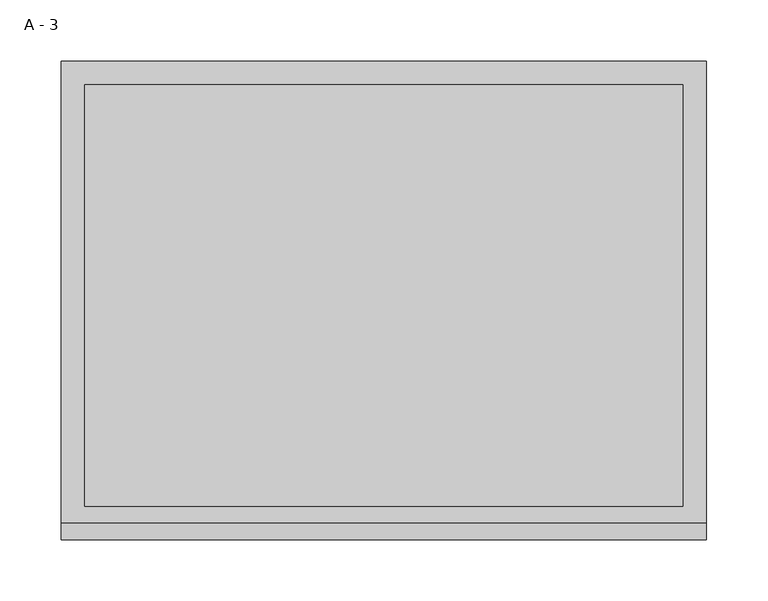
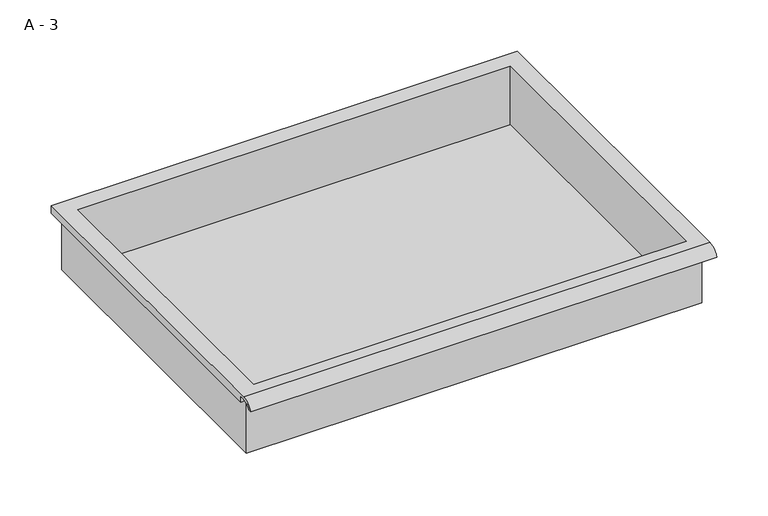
"""IFC4 building model written with IfcOpenShell, lengths in millimetres: furniture geometry, HermanMiller_CoStruc_CO207_Drawer : A - 3."""

from ifc_helpers import new_model, si_unit, frame, origin, place, context, project, spatial, polyline, circle_curve, source, transform, mapped, element, save
from ifc_brep_helpers import plane_surface, cylinder_surface, revolved_surface, advanced_brep


def a_3_ebddeea6(model_context):
    return source(origin(), model_context, "Body", "AdvancedBrep", [
        advanced_brep(
        [(-257.1076517, -176.2125, 693.7502), (257.2423483, -176.2125, 693.7502), (257.2423483, -176.2125, 757.2502), (263.5923483, -176.2125, 757.2502), (263.5923483, -176.2125, 763.5573341), (-263.4576517, -176.2125, 763.5573341), (-263.4576517, -176.2125, 757.2502), (-257.1076517, -176.2125, 757.2502), (257.2423483, 185.7375, 693.7502), (-257.1076517, 185.7375, 693.7502), (-257.1076517, 185.7375, 757.2502), (257.2423483, 185.7375, 757.2502), (263.5923483, -181.6070544, 766.7752), (263.5923483, 195.2625, 766.7752), (-263.4576517, 195.2625, 766.7752), (-263.4576517, -181.6070544, 766.7752), (244.5423483, -168.275, 766.7752), (-244.4076517, -168.275, 766.7752), (-244.4076517, 176.2125, 766.7752), (244.5423483, 176.2125, 766.7752), (263.5923483, -195.2625, 757.2502), (263.5923483, -191.8280601, 757.2502), (263.5923483, -180.4714815, 763.5573341), (263.5923483, 195.2625, 757.2502), (-263.4576517, 195.2625, 757.2502), (-263.4576517, -180.4714815, 763.5573341), (-263.4576517, -191.8280601, 757.2502), (-263.4576517, -195.2625, 757.2502), (-244.4076517, -168.275, 696.7763719), (244.5423483, -168.275, 696.7763719), (244.5423483, 176.2125, 696.7763719), (-244.4076517, 176.2125, 696.7763719)],
        [
            (0, 1),
            (1, 2),
            (2, 3),
            (3, 4),
            (4, 5),
            (5, 6),
            (6, 7),
            (7, 0),
            (8, 9),
            (9, 10),
            (10, 11),
            (11, 8),
            (0, 9),
            (8, 1),
            (11, 2),
            (12, 13),
            (13, 14),
            (14, 15),
            (15, 12),
            (16, 17),
            (17, 18),
            (18, 19),
            (19, 16),
            (7, 10),
            (12, 20, circle_curve(frame((263.5923483, -181.6070544, 752.2241859), z_axis=(1.0, 0.0, 0.0), x_axis=(0.0, 1.0, 0.0)), 14.5510141)),
            (20, 21),
            (21, 22, circle_curve(frame((263.5923483, -181.6070544, 752.2241859), z_axis=(-1.0, 0.0, 0.0), x_axis=(0.0, 1.0, 0.0)), 11.3898979)),
            (22, 4),
            (3, 23),
            (23, 13),
            (14, 24),
            (24, 6),
            (5, 25),
            (25, 26, circle_curve(frame((-263.4576517, -181.6070544, 752.2241859), z_axis=(1.0, 0.0, 0.0), x_axis=(0.0, 1.0, 0.0)), 11.3898979)),
            (26, 27),
            (27, 15, circle_curve(frame((-263.4576517, -181.6070544, 752.2241859), z_axis=(-1.0, 0.0, 0.0), x_axis=(0.0, 1.0, 0.0)), 14.5510141)),
            (27, 20),
            (26, 21),
            (25, 22),
            (24, 23),
            (28, 29),
            (29, 30),
            (30, 31),
            (31, 28),
            (28, 17),
            (16, 29),
            (19, 30),
            (18, 31),
        ],
        [
            plane_surface(frame((257.2423483, -176.2125, 693.7502), z_axis=(0.0, -1.0, 0.0), x_axis=(1.0, 0.0, 0.0))),
            plane_surface(frame((257.2423483, 185.7375, 693.7502), z_axis=(0.0, 1.0, 0.0), x_axis=(-1.0, 0.0, 0.0))),
            plane_surface(frame((-257.1076517, -176.2125, 693.7502), z_axis=(0.0, 0.0, -1.0), x_axis=(0.0, 1.0, 0.0))),
            plane_surface(frame((257.2423483, -176.2125, 693.7502), z_axis=(1.0, 0.0, 0.0), x_axis=(0.0, 1.0, 0.0))),
            plane_surface(frame((257.2423483, -176.2125, 766.7752), z_axis=(0.0, 0.0, 1.0), x_axis=(0.0, 1.0, 0.0))),
            plane_surface(frame((-257.1076517, -176.2125, 766.7752), z_axis=(-1.0, 0.0, 0.0), x_axis=(0.0, 1.0, 0.0))),
            plane_surface(frame((263.5923483, 195.2625, 766.7752), z_axis=(1.0, 0.0, 0.0), x_axis=(0.0, -1.0, 0.0))),
            plane_surface(frame((-263.4576517, 195.2625, 766.7752), z_axis=(-1.0, 0.0, 0.0), x_axis=(0.0, 1.0, 0.0))),
            cylinder_surface(frame((-263.4576517, -181.6070544, 752.2241859), z_axis=(1.0, 0.0, 0.0), x_axis=(0.0, 1.0, 0.0)), 14.5510141),
            plane_surface(frame((263.5923483, -195.2625, 757.2502), z_axis=(0.0, -7.291233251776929e-12, -1.0), x_axis=(-1.0, 0.0, 0.0))),
            revolved_surface(polyline([(-263.4576517, -170.21715650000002, 752.2241859), (263.59234829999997, -170.21715650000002, 752.2241859)]), (-263.4576517, -181.6070544, 752.2241859), (-1.0, 0.0, 0.0)),
            plane_surface(frame((263.5923483, -180.4714815, 763.5573341), z_axis=(0.0, -1.8020319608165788e-11, -1.0), x_axis=(-1.0, 0.0, 0.0))),
            plane_surface(frame((263.5923483, -176.2125, 757.2502), z_axis=(0.0, 0.0, -1.0), x_axis=(-1.0, 0.0, 0.0))),
            plane_surface(frame((263.5923483, 195.2625, 757.2502), z_axis=(0.0, 1.0, 0.0), x_axis=(-1.0, 0.0, 0.0))),
            plane_surface(frame((244.5423483, -168.275, 696.7763719), z_axis=(0.0, 0.0, 1.0), x_axis=(-1.0, 0.0, 0.0))),
            plane_surface(frame((-244.4076517, -168.275, 766.7752), z_axis=(0.0, 1.0, 0.0), x_axis=(0.0, 0.0, -1.0))),
            plane_surface(frame((244.5423483, -168.275, 766.7752), z_axis=(-1.0, 0.0, 0.0), x_axis=(0.0, 0.0, -1.0))),
            plane_surface(frame((244.5423483, 176.2125, 766.7752), z_axis=(0.0, -1.0, 0.0), x_axis=(0.0, 0.0, -1.0))),
            plane_surface(frame((-244.4076517, 176.2125, 766.7752), z_axis=(1.0, 0.0, 0.0), x_axis=(0.0, 0.0, -1.0))),
        ],
        [
            (0, [[1, 2, 3, 4, 5, 6, 7, 8]]),
            (1, [[9, 10, 11, 12]]),
            (2, [[-1, 13, -9, 14]]),
            (3, [[-14, -12, 15, -2]]),
            (4, [[16, 17, 18, 19], [20, 21, 22, 23]]),
            (5, [[-13, -8, 24, -10]]),
            (6, [[-16, 25, 26, 27, 28, -4, 29, 30]]),
            (7, [[31, 32, -6, 33, 34, 35, 36, -18]]),
            (8, [[-25, -19, -36, 37]]),
            (9, [[-26, -37, -35, 38]]),
            (10, [[-27, -38, -34, 39]]),
            (11, [[-28, -39, -33, -5]]),
            (12, [[-29, -3, -15, -11, -24, -7, -32, 40]]),
            (13, [[-30, -40, -31, -17]]),
            (14, [[41, 42, 43, 44]]),
            (15, [[-41, 45, -20, 46]]),
            (16, [[-42, -46, -23, 47]]),
            (17, [[-43, -47, -22, 48]]),
            (18, [[-44, -48, -21, -45]]),
        ],
    ),
    ])


if __name__ == "__main__":
    model = new_model("IFC4")
    model_context = context("Model", 3, world=origin())
    ifc_project = project(units=[si_unit("LENGTHUNIT", "METRE", prefix="MILLI")], contexts=[model_context])
    site = spatial("IfcSite", under=ifc_project)
    building = spatial("IfcBuilding", under=site)
    placement = place(None, origin())
    a_3_shape = a_3_ebddeea6(model_context)
    element("IfcFurniture", 1, ObjectType="HermanMiller_CoStruc_CO207_Drawer : A - 3", at=placement, inside=building, context=model_context, shape_type="MappedRepresentation", body=[
        mapped(a_3_shape, transform((0.0, 0.0, 0.0), x_axis=(1.0, 0.0, 0.0), y_axis=(0.0, 1.0, 0.0), z_axis=(0.0, 0.0, 1.0))),
    ])
    save(model, "model.ifc")
